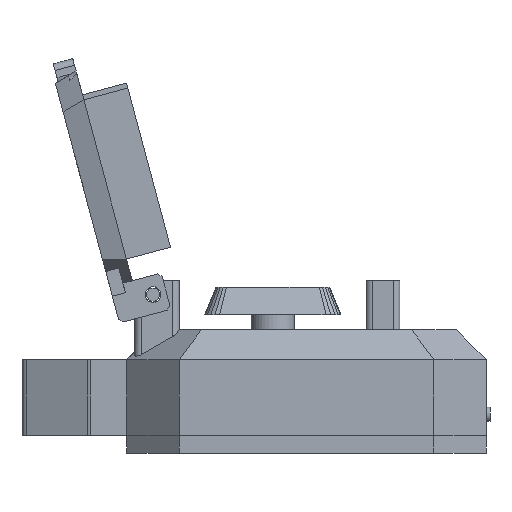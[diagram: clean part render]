
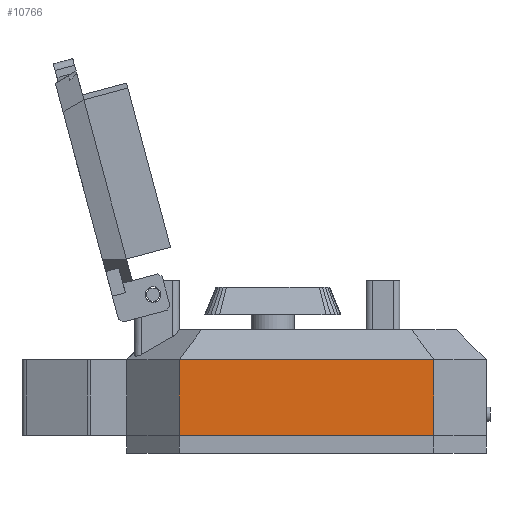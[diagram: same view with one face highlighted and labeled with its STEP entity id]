
A CAD part, left-side view. The second image highlights one B-rep face of the part: STEP entity #10766.
In plain terms, the highlighted planar face has unit normal (-1, 0, 0).
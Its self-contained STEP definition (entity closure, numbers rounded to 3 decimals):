
#90 = PLANE('',#91);
#91 = AXIS2_PLACEMENT_3D('',#92,#93,#94);
#92 = CARTESIAN_POINT('',(0.,0.,2.4));
#93 = DIRECTION('',(0.,0.,1.));
#94 = DIRECTION('',(1.,0.,-0.));
#118 = PLANE('',#119);
#119 = AXIS2_PLACEMENT_3D('',#120,#121,#122);
#120 = CARTESIAN_POINT('',(-27.,-17.,2.4));
#121 = DIRECTION('',(0.707,0.707,-0.));
#122 = DIRECTION('',(0.707,-0.707,0.));
#8210 = B_SPLINE_SURFACE_WITH_KNOTS('',1,1,(
    (#8211,#8212)
    ,(#8213,#8214
    )),.UNSPECIFIED.,.F.,.F.,.F.,(2,2),(2,2),(0.,34.),(0.,1.),
  .PIECEWISE_BEZIER_KNOTS.);
#8211 = CARTESIAN_POINT('',(-27.,17.,12.5));
#8212 = CARTESIAN_POINT('',(-23.,14.037,16.5));
#8213 = CARTESIAN_POINT('',(-27.,-17.,12.5));
#8214 = CARTESIAN_POINT('',(-23.,-14.037,16.5));
#10282 = VERTEX_POINT('',#10283);
#10283 = CARTESIAN_POINT('',(-27.,17.,12.5));
#10296 = PLANE('',#10297);
#10297 = AXIS2_PLACEMENT_3D('',#10298,#10299,#10300);
#10298 = CARTESIAN_POINT('',(-20.,24.,2.4));
#10299 = DIRECTION('',(0.707,-0.707,0.));
#10300 = DIRECTION('',(-0.707,-0.707,0.));
#10718 = EDGE_CURVE('',#10719,#10282,#10721,.T.);
#10719 = VERTEX_POINT('',#10720);
#10720 = CARTESIAN_POINT('',(-27.,17.,2.4));
#10721 = SURFACE_CURVE('',#10722,(#10726,#10733),.PCURVE_S1.);
#10722 = LINE('',#10723,#10724);
#10723 = CARTESIAN_POINT('',(-27.,17.,2.4));
#10724 = VECTOR('',#10725,1.);
#10725 = DIRECTION('',(0.,0.,1.));
#10726 = PCURVE('',#10296,#10727);
#10727 = DEFINITIONAL_REPRESENTATION('',(#10728),#10732);
#10728 = LINE('',#10729,#10730);
#10729 = CARTESIAN_POINT('',(9.899,0.));
#10730 = VECTOR('',#10731,1.);
#10731 = DIRECTION('',(0.,-1.));
#10732 = ( GEOMETRIC_REPRESENTATION_CONTEXT(2) 
PARAMETRIC_REPRESENTATION_CONTEXT() REPRESENTATION_CONTEXT('2D SPACE',''
  ) );
#10733 = PCURVE('',#10734,#10739);
#10734 = PLANE('',#10735);
#10735 = AXIS2_PLACEMENT_3D('',#10736,#10737,#10738);
#10736 = CARTESIAN_POINT('',(-27.,17.,2.4));
#10737 = DIRECTION('',(1.,0.,-0.));
#10738 = DIRECTION('',(0.,-1.,0.));
#10739 = DEFINITIONAL_REPRESENTATION('',(#10740),#10744);
#10740 = LINE('',#10741,#10742);
#10741 = CARTESIAN_POINT('',(0.,0.));
#10742 = VECTOR('',#10743,1.);
#10743 = DIRECTION('',(0.,-1.));
#10744 = ( GEOMETRIC_REPRESENTATION_CONTEXT(2) 
PARAMETRIC_REPRESENTATION_CONTEXT() REPRESENTATION_CONTEXT('2D SPACE',''
  ) );
#10766 = ADVANCED_FACE('',(#10767),#10734,.F.);
#10767 = FACE_BOUND('',#10768,.F.);
#10768 = EDGE_LOOP('',(#10769,#10770,#10792,#10815));
#10769 = ORIENTED_EDGE('',*,*,#10718,.T.);
#10770 = ORIENTED_EDGE('',*,*,#10771,.T.);
#10771 = EDGE_CURVE('',#10282,#10772,#10774,.T.);
#10772 = VERTEX_POINT('',#10773);
#10773 = CARTESIAN_POINT('',(-27.,-17.,12.5));
#10774 = SURFACE_CURVE('',#10775,(#10779,#10786),.PCURVE_S1.);
#10775 = LINE('',#10776,#10777);
#10776 = CARTESIAN_POINT('',(-27.,17.,12.5));
#10777 = VECTOR('',#10778,1.);
#10778 = DIRECTION('',(0.,-1.,0.));
#10779 = PCURVE('',#10734,#10780);
#10780 = DEFINITIONAL_REPRESENTATION('',(#10781),#10785);
#10781 = LINE('',#10782,#10783);
#10782 = CARTESIAN_POINT('',(0.,-10.1));
#10783 = VECTOR('',#10784,1.);
#10784 = DIRECTION('',(1.,0.));
#10785 = ( GEOMETRIC_REPRESENTATION_CONTEXT(2) 
PARAMETRIC_REPRESENTATION_CONTEXT() REPRESENTATION_CONTEXT('2D SPACE',''
  ) );
#10786 = PCURVE('',#8210,#10787);
#10787 = DEFINITIONAL_REPRESENTATION('',(#10788),#10791);
#10788 = B_SPLINE_CURVE_WITH_KNOTS('',1,(#10789,#10790),.UNSPECIFIED.,
  .F.,.F.,(2,2),(0.,34.),.PIECEWISE_BEZIER_KNOTS.);
#10789 = CARTESIAN_POINT('',(0.,0.));
#10790 = CARTESIAN_POINT('',(34.,0.));
#10791 = ( GEOMETRIC_REPRESENTATION_CONTEXT(2) 
PARAMETRIC_REPRESENTATION_CONTEXT() REPRESENTATION_CONTEXT('2D SPACE',''
  ) );
#10792 = ORIENTED_EDGE('',*,*,#10793,.F.);
#10793 = EDGE_CURVE('',#10794,#10772,#10796,.T.);
#10794 = VERTEX_POINT('',#10795);
#10795 = CARTESIAN_POINT('',(-27.,-17.,2.4));
#10796 = SURFACE_CURVE('',#10797,(#10801,#10808),.PCURVE_S1.);
#10797 = LINE('',#10798,#10799);
#10798 = CARTESIAN_POINT('',(-27.,-17.,2.4));
#10799 = VECTOR('',#10800,1.);
#10800 = DIRECTION('',(0.,0.,1.));
#10801 = PCURVE('',#10734,#10802);
#10802 = DEFINITIONAL_REPRESENTATION('',(#10803),#10807);
#10803 = LINE('',#10804,#10805);
#10804 = CARTESIAN_POINT('',(34.,0.));
#10805 = VECTOR('',#10806,1.);
#10806 = DIRECTION('',(0.,-1.));
#10807 = ( GEOMETRIC_REPRESENTATION_CONTEXT(2) 
PARAMETRIC_REPRESENTATION_CONTEXT() REPRESENTATION_CONTEXT('2D SPACE',''
  ) );
#10808 = PCURVE('',#118,#10809);
#10809 = DEFINITIONAL_REPRESENTATION('',(#10810),#10814);
#10810 = LINE('',#10811,#10812);
#10811 = CARTESIAN_POINT('',(0.,0.));
#10812 = VECTOR('',#10813,1.);
#10813 = DIRECTION('',(0.,-1.));
#10814 = ( GEOMETRIC_REPRESENTATION_CONTEXT(2) 
PARAMETRIC_REPRESENTATION_CONTEXT() REPRESENTATION_CONTEXT('2D SPACE',''
  ) );
#10815 = ORIENTED_EDGE('',*,*,#10816,.F.);
#10816 = EDGE_CURVE('',#10719,#10794,#10817,.T.);
#10817 = SURFACE_CURVE('',#10818,(#10822,#10829),.PCURVE_S1.);
#10818 = LINE('',#10819,#10820);
#10819 = CARTESIAN_POINT('',(-27.,17.,2.4));
#10820 = VECTOR('',#10821,1.);
#10821 = DIRECTION('',(0.,-1.,0.));
#10822 = PCURVE('',#10734,#10823);
#10823 = DEFINITIONAL_REPRESENTATION('',(#10824),#10828);
#10824 = LINE('',#10825,#10826);
#10825 = CARTESIAN_POINT('',(0.,0.));
#10826 = VECTOR('',#10827,1.);
#10827 = DIRECTION('',(1.,0.));
#10828 = ( GEOMETRIC_REPRESENTATION_CONTEXT(2) 
PARAMETRIC_REPRESENTATION_CONTEXT() REPRESENTATION_CONTEXT('2D SPACE',''
  ) );
#10829 = PCURVE('',#90,#10830);
#10830 = DEFINITIONAL_REPRESENTATION('',(#10831),#10835);
#10831 = LINE('',#10832,#10833);
#10832 = CARTESIAN_POINT('',(-27.,17.));
#10833 = VECTOR('',#10834,1.);
#10834 = DIRECTION('',(0.,-1.));
#10835 = ( GEOMETRIC_REPRESENTATION_CONTEXT(2) 
PARAMETRIC_REPRESENTATION_CONTEXT() REPRESENTATION_CONTEXT('2D SPACE',''
  ) );
